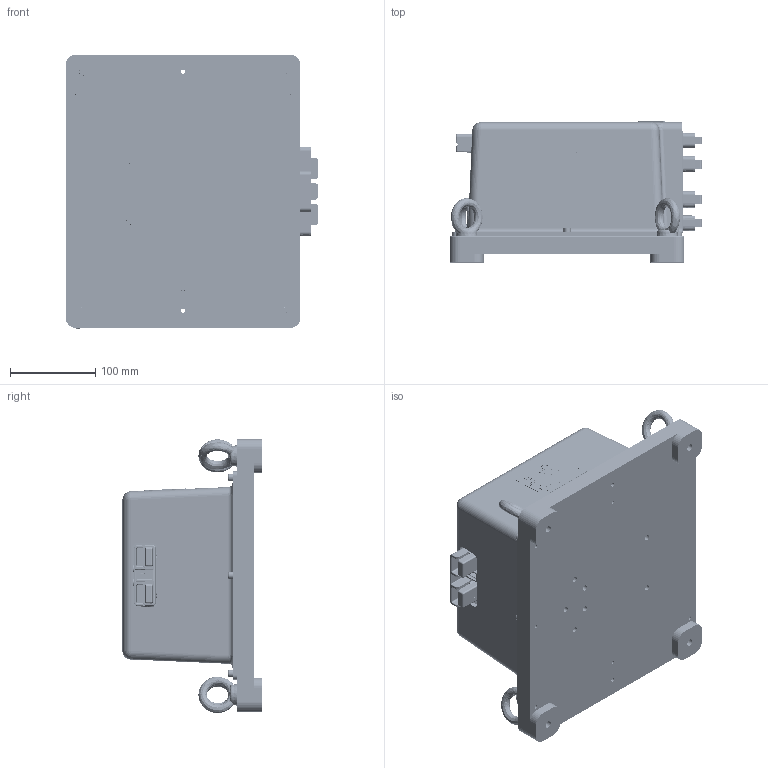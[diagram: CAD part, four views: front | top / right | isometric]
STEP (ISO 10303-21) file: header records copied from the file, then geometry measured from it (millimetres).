
FILE_DESCRIPTION (( 'STEP AP214' ), '1' );
FILE_NAME ('VMCUN-000000042A11.STEP', '2019-02-26T14:08:09', ( '' ), ( '' ), 'SwSTEP 2.0', 'SolidWorks 2017', '' );
FILE_SCHEMA (( 'AUTOMOTIVE_DESIGN' ));
Length unit declared in the file: millimetre
Products named in the file (27): VCRDU-0060042A11; VCRUN-0010132752; VCRDU-0020042A11; CR82399103_CR82322917.drw; CR82392302; VMCUN-000000042A11; TEXXX-0000030077; 00309343; 00305600; 00302038; 00302226; VCRUN-0000132739; Copy of Copy of capocorda_contatto^VCRUN-0000132739; 00302017; 00304719; 00302032; 00302051; 00302068; 00304102; TEXXX-0000030559; 00302418; VCRDU-0070042A11; 81784803; TEXXX-0000033863; 00480747; VCRDU-0080042A11; VMCDU-003000060A11
Assembly tree (71 placements, depth 3):
  VMCUN-000000042A11
    VCRDU-0020042A11
    VCRDU-0060042A11
    VCRDU-0080042A11
    TEXXX-0000033863
    VCRDU-0070042A11
    VCRUN-0000132739
      TEXXX-0000030559
      00302068  x2
      00302051  x4
      00302032  x6
      00304719  x6
      00302017  x12
      Copy of Copy of capocorda_contatto^VCRUN-0000132739
    00302068  x3
    00302226  x2
    00302038  x4
    00302032  x7
    00305600  x4
    00309343
    TEXXX-0000030077
    CR82392302
    CR82399103_CR82322917.drw
    VCRUN-0010132752
    VMCDU-003000060A11
    00480747
    81784803
    00302418
    00304102  x4
Bounding box: 296.06 x 165 x 321.35 mm (x, y, z)
Volume: 2923649.3 mm3; surface area: 750923.3 mm2
Topology: 117 solids, 129 shells, 6775 faces, 17273 edges, 11277 vertices
Faces by surface type: plane 3566, bspline 2077, cylinder 714, cone 308, torus 86, sphere 24
Full cylindrical faces by diameter (mm): 1.27 x1, 1.422 x1, 2.286 x8, 2.489 x2, 3.454 x4, 3.962 x10, 4 x12, 4.039 x12, 4.134 x6, 4.166 x4, 4.2 x11, 4.762 x4, 4.775 x4, 4.826 x12, 5 x22, 5.029 x7, 5.3 x6, 5.5 x7, 6 x4, 6.35 x16, 6.8 x7, 7 x12, 7.925 x1, 7.938 x12, 8 x5, 8.376 x5, 8.5 x23, 8.73 x2, 9.525 x2, 10 x14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
Entity records: 369784 total; most frequent: CARTESIAN_POINT 200395, ORIENTED_EDGE 31088, DIRECTION 20893, EDGE_CURVE 15547, VERTEX_POINT 10375, LINE 9573, VECTOR 9573, EDGE_LOOP 7158
